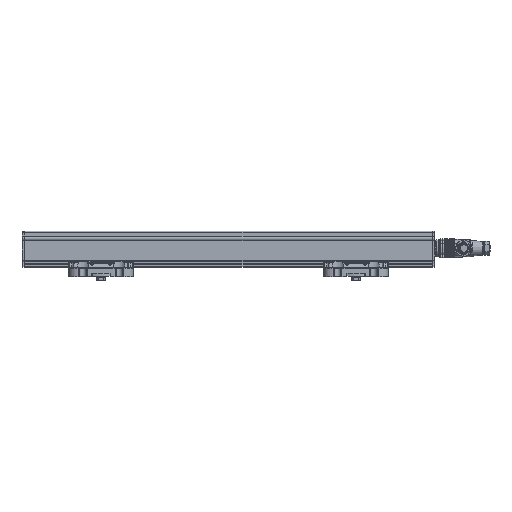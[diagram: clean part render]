
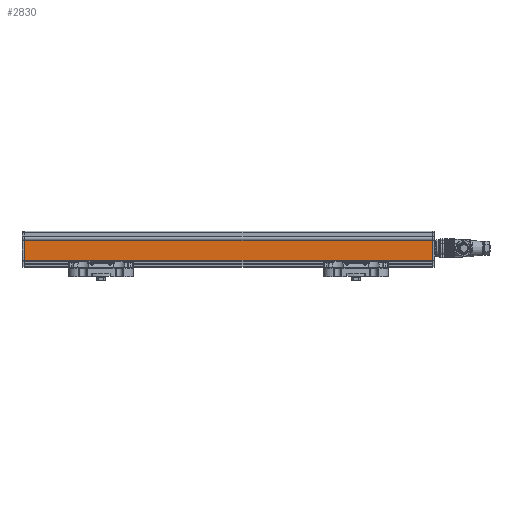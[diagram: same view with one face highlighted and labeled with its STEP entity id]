
A CAD part, front view. The second image highlights one B-rep face of the part: STEP entity #2830.
In plain terms, the highlighted planar face has unit normal (0, -1, 0).
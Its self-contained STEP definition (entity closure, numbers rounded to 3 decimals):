
#2830=ADVANCED_FACE('', (#2840), #2850, .T.);
#127930=AXIS2_PLACEMENT_3D('Ax2Pl3d', #127940, #127950, #127960);
#1287130=CARTESIAN_POINT('', (-221.096,53.671,
83.775));
#1287140=CARTESIAN_POINT('', (-221.096,53.671,
83.775));
#1287150=CARTESIAN_POINT('', (-221.096,53.671,
104.338));
#1288190=CARTESIAN_POINT('', (208.903,53.671,104.338)
);
#1288200=CARTESIAN_POINT('', (208.903,53.671,83.775)
);
#1288210=CARTESIAN_POINT('', (208.903,53.671,83.775)
);
#1288680=CARTESIAN_POINT('', (208.903,53.671,83.775)
);
#127940=CARTESIAN_POINT('HicPkt', (-221.096,53.671,
104.338));
#1288690=CARTESIAN_POINT('', (208.903,53.671,104.338)
);
#1710360=DIRECTION('', (0.,0.,-1.));
#1710710=DIRECTION('', (0.,0.,-1.));
#1711070=DIRECTION('', (1.,0.,0.));
#127950=DIRECTION('Axis', (0.,-1.,
0.));
#127960=DIRECTION('RefDirection', (0.,
0.,-1.));
#1711080=DIRECTION('', (1.,0.,0.));
#1767100=EDGE_CURVE('', #1767110, #1767090, #1767120, .T.);
#1769110=EDGE_CURVE('', #1769100, #1769120, #1769130, .T.);
#1770020=EDGE_CURVE('', #1767090, #1769120, #1770030, .T.);
#1770040=EDGE_CURVE('', #1767110, #1769100, #1770050, .T.);
#1991090=EDGE_LOOP('Edge_loop', (#1991100,#1991110,#1991120,#1991130));
#2840=FACE_OUTER_BOUND('Face_outer_bound', #1991090, .T.);
#1767120=LINE('Line', #1287140, #2231130);
#1769130=LINE('Line', #1288200, #2231480);
#1770030=LINE('Line', #1288680, #2231840);
#1770050=LINE('Line', #1288690, #2231850);
#1991100=ORIENTED_EDGE('', *, *, #1767100, .T.);
#1991110=ORIENTED_EDGE('', *, *, #1770020, .T.);
#1991120=ORIENTED_EDGE('', *, *, #1769110, .F.);
#1991130=ORIENTED_EDGE('', *, *, #1770040, .F.);
#2850=PLANE('Plane', #127930);
#2231130=VECTOR('', #1710360, 20.563);
#2231480=VECTOR('', #1710710, 20.563);
#2231840=VECTOR('', #1711070, 430.);
#2231850=VECTOR('', #1711080, 430.);
#1767090=VERTEX_POINT('', #1287130);
#1767110=VERTEX_POINT('', #1287150);
#1769100=VERTEX_POINT('', #1288190);
#1769120=VERTEX_POINT('', #1288210);
